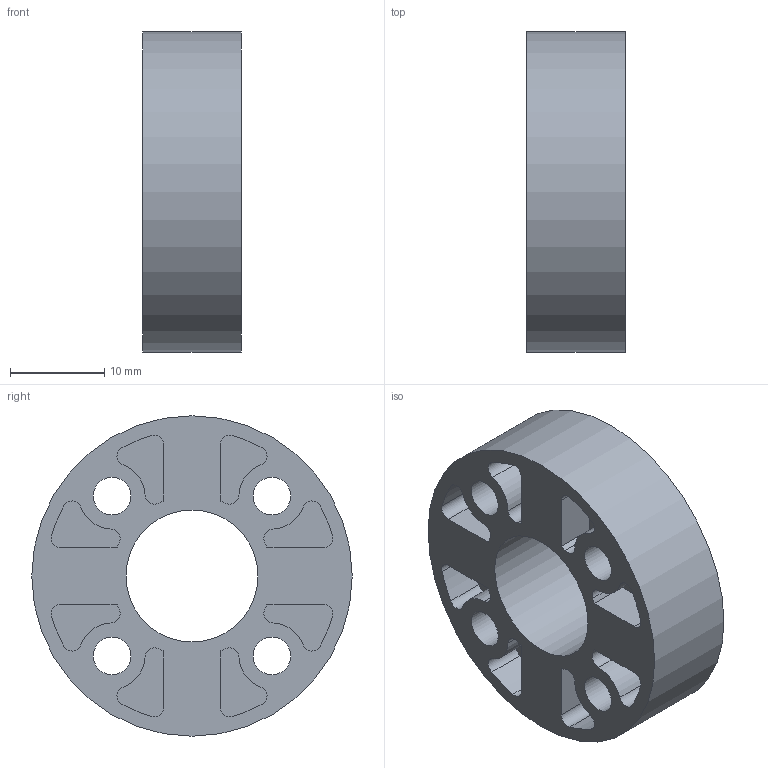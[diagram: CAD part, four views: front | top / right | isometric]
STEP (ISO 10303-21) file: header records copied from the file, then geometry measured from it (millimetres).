
FILE_DESCRIPTION (( 'STEP AP214' ), '1' );
FILE_NAME ('No.2P儅僌僱僢僩.STEP', '2019-05-22T07:27:41', ( '' ), ( '' ), 'SwSTEP 2.0', 'SolidWorks 2018', '' );
FILE_SCHEMA (( 'AUTOMOTIVE_DESIGN' ));
Length unit declared in the file: millimetre
Products named in the file (1): No.2Pマグネット
Bounding box: 10.4 x 34 x 34 mm (x, y, z)
Volume: 5809.2 mm3; surface area: 4864.7 mm2
Topology: 1 solids, 1 shells, 136 faces, 354 edges, 236 vertices
Faces by surface type: cylinder 102, plane 34
Full cylindrical faces by diameter (mm): 4 x4, 14 x1, 34 x1
Entity records: 4306 total; most frequent: DIRECTION 826, CARTESIAN_POINT 721, ORIENTED_EDGE 696, EDGE_CURVE 348, AXIS2_PLACEMENT_3D 341, VERTEX_POINT 236, CIRCLE 204, EDGE_LOOP 168
